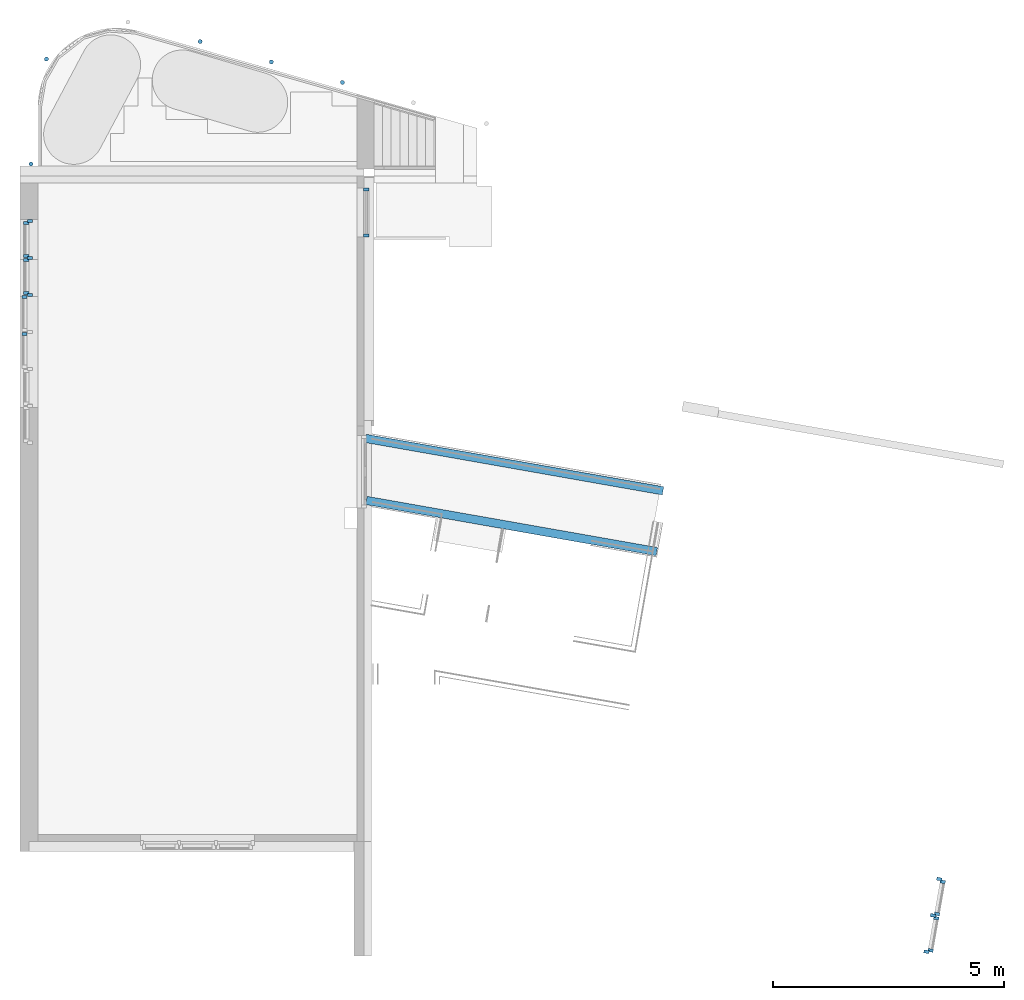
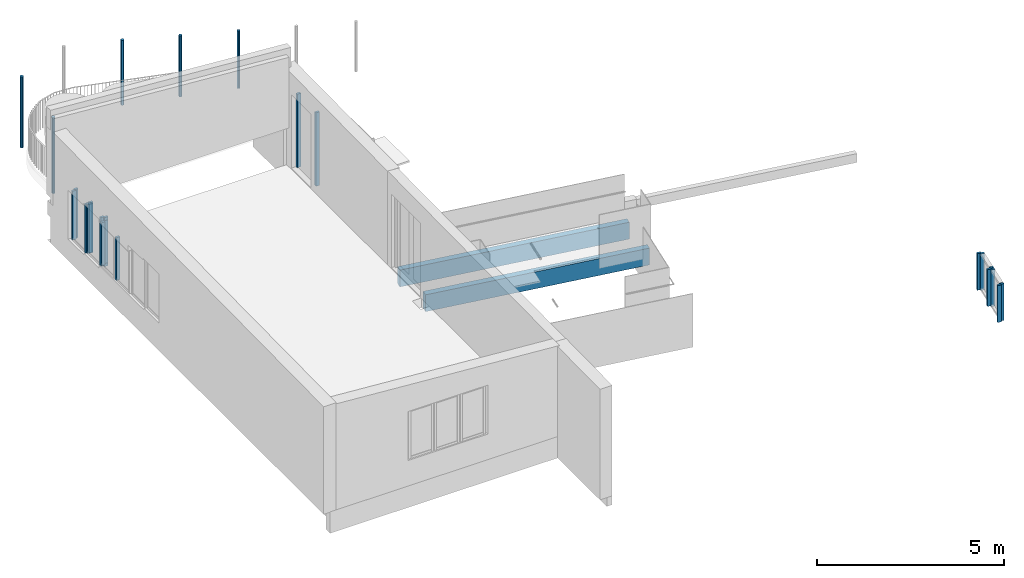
# One storey, part 2 of 10: 26 members, 2 beams, 15 elements without a shape of their own.
"""IFC2X3 building model written with IfcOpenShell, lengths in millimetres."""

from ifc_helpers import new_model, entity, si_unit, converted_unit, derived_unit, direction, frame, frame_2d, origin, origin_2d_with_axis, place, context, subcontext, project, spatial, polyline, rectangle, circle, outline, extrude, source, transform, mapped, material, type_object, type_shapes, element, aggregate, save


model = new_model("IFC2X3")

# Units and contexts
model_context = context("Model", 3, precision=0.01, world=origin(), true_north=direction((6.12303176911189e-17, 1.0)))
body_context = subcontext(model_context, "Body", "Model", "MODEL_VIEW")
ifc_project = project(units=[si_unit("LENGTHUNIT", "METRE", prefix="MILLI"), si_unit("AREAUNIT", "SQUARE_METRE"), si_unit("VOLUMEUNIT", "CUBIC_METRE"), converted_unit("PLANEANGLEUNIT", "DEGREE", entity("IfcRatioMeasure", 0.0174532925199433), si_unit("PLANEANGLEUNIT", "RADIAN"), dimensions=[0, 0, 0, 0, 0, 0, 0]), si_unit("MASSUNIT", "GRAM", prefix="KILO"), derived_unit("MASSDENSITYUNIT", [(si_unit("MASSUNIT", "GRAM", prefix="KILO"), 1), (si_unit("LENGTHUNIT", "METRE"), -3)]), derived_unit("MOMENTOFINERTIAUNIT", [(si_unit("LENGTHUNIT", "METRE"), 4)]), si_unit("TIMEUNIT", "SECOND"), si_unit("FREQUENCYUNIT", "HERTZ"), si_unit("THERMODYNAMICTEMPERATUREUNIT", "DEGREE_CELSIUS"), derived_unit("THERMALTRANSMITTANCEUNIT", [(si_unit("MASSUNIT", "GRAM", prefix="KILO"), 1), (si_unit("THERMODYNAMICTEMPERATUREUNIT", "KELVIN"), -1), (si_unit("TIMEUNIT", "SECOND"), -3)]), derived_unit("VOLUMETRICFLOWRATEUNIT", [(si_unit("LENGTHUNIT", "METRE"), 3), (si_unit("TIMEUNIT", "SECOND"), -1)]), si_unit("ELECTRICCURRENTUNIT", "AMPERE"), si_unit("ELECTRICVOLTAGEUNIT", "VOLT"), si_unit("POWERUNIT", "WATT"), si_unit("FORCEUNIT", "NEWTON", prefix="KILO"), si_unit("ILLUMINANCEUNIT", "LUX"), si_unit("LUMINOUSFLUXUNIT", "LUMEN"), si_unit("LUMINOUSINTENSITYUNIT", "CANDELA"), derived_unit("USERDEFINED", [(si_unit("MASSUNIT", "GRAM", prefix="KILO"), -1), (si_unit("LENGTHUNIT", "METRE"), -2), (si_unit("TIMEUNIT", "SECOND"), 3), (si_unit("LUMINOUSFLUXUNIT", "LUMEN"), 1)]), derived_unit("LINEARVELOCITYUNIT", [(si_unit("LENGTHUNIT", "METRE"), 1), (si_unit("TIMEUNIT", "SECOND"), -1)]), si_unit("PRESSUREUNIT", "PASCAL"), derived_unit("USERDEFINED", [(si_unit("LENGTHUNIT", "METRE"), -2), (si_unit("MASSUNIT", "GRAM", prefix="KILO"), 1), (si_unit("TIMEUNIT", "SECOND"), -2)]), derived_unit("LINEARFORCEUNIT", [(si_unit("MASSUNIT", "GRAM", prefix="KILO"), 1), (si_unit("LENGTHUNIT", "METRE"), 1), (si_unit("TIMEUNIT", "SECOND"), -2), (si_unit("LENGTHUNIT", "METRE"), -1)]), derived_unit("PLANARFORCEUNIT", [(si_unit("MASSUNIT", "GRAM", prefix="KILO"), 1), (si_unit("LENGTHUNIT", "METRE"), 1), (si_unit("TIMEUNIT", "SECOND"), -2), (si_unit("LENGTHUNIT", "METRE"), -2)])], contexts=[model_context])

# Site, building, storey
site_placement = place(None, origin())
site = spatial("IfcSite", under=ifc_project, at=site_placement, Name="<Kadaster Gemeente>;<Kadaster nummer>;<Kadaster sectie>", CompositionType="ELEMENT")
building_placement = place(site_placement, origin())
building = spatial("IfcBuilding", under=site, at=building_placement, Name="JRCZ Middelburg", CompositionType="ELEMENT")
storey_placement = place(building_placement, frame((0.0, 0.0, 3700.0)))
storey = spatial("IfcBuildingStorey", under=building, at=storey_placement, Name="02 tweede verdieping", CompositionType="ELEMENT", Elevation=3700.0)

# Beams
ifc_material_1 = material(Name="Softwood, Lumber")
beam_type = type_object("IfcBeamType", Name="M_Dimension Lumber:180x550", PredefinedType="NOTDEFINED")
beam_1_placement = place(storey_placement, frame((23427.5457609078, 16290.1481056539, 100.0), z_axis=(0.0, 0.0, 1.0), x_axis=(-0.984837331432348, 0.173480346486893, 0.0)))
element("IfcBeam", 1, at=beam_1_placement, inside=storey, type_object=beam_type, material=ifc_material_1, Name="M_Dimension Lumber:180x550", ObjectType="M_Dimension Lumber:180x550", context=body_context, shape_type="SweptSolid", body=[
    extrude(rectangle(XDim=550.0, YDim=180.000000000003, at=frame_2d((-5.40012479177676e-13, -3.76587649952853e-13), x_axis=(1.0, 0.0))), frame((-111.759709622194, 0.0, -425.0), z_axis=(1.0, 0.0, 0.0), x_axis=(0.0, 0.0, -1.0)), (0.0, 0.0, 1.0), 6377.85981919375),
])
beam_2_placement = place(storey_placement, frame((23671.9398573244, 17585.4193425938, 100.0), z_axis=(0.0, 0.0, 1.0), x_axis=(-0.984807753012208, 0.173648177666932, 0.0)))
element("IfcBeam", 2, at=beam_2_placement, inside=storey, type_object=beam_type, material=ifc_material_1, Name="M_Dimension Lumber:180x550", ObjectType="M_Dimension Lumber:180x550", context=body_context, shape_type="SweptSolid", body=[
    extrude(rectangle(XDim=550.0, YDim=180.000000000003, at=frame_2d((-5.40012479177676e-13, 2.1316282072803e-12), x_axis=(1.0, 0.0))), frame((0.0, 0.0, -425.0), z_axis=(1.0, 0.0, 0.0), x_axis=(0.0, 0.0, -1.0)), (0.0, 0.0, 1.0), 6533.0971955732),
])

# Curtain wall, members
curtain_wall_type_1 = type_object("IfcCurtainWallType", Name="Curtain Wall:NLRS_31_CW_Ontwerpkozijn 067x114", PredefinedType="NOTDEFINED")
curtain_wall_1_placement = place(storey_placement, frame((0.0, 0.0, -3700.0)))
curtain_wall_1 = element("IfcCurtainWall", 3, at=curtain_wall_1_placement, inside=storey, type_object=curtain_wall_type_1, Name="Curtain Wall:NLRS_31_CW_Ontwerpkozijn 067x114", ObjectType="Curtain Wall:NLRS_31_CW_Ontwerpkozijn 067x114")
ifc_material_2 = material(Name="RBM_a_kozijn")
member_type_1 = type_object("IfcMemberType", Name="Rectangular Mullion:31_CWM_067x114", PredefinedType="MULLION", material=ifc_material_2)
shared_shape_1 = source(origin(), body_context, "Body", "SweptSolid", [
    extrude(rectangle(XDim=113.999999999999, YDim=67.0, at=origin_2d_with_axis()), frame((-33.5, -57.0, -2400.0), z_axis=(0.0, 0.0, 1.0), x_axis=(0.0, -1.0, 0.0)), (0.0, 0.0, 1.0), 2400.0),
])
type_shapes(member_type_1, [shared_shape_1])
member_1_placement = place(storey_placement, frame((17197.0, 23074.0, 0.0), z_axis=(0.0, 0.0, -1.0), x_axis=(0.0, -1.0, 0.0)))
member_1 = element("IfcMember", 4, at=member_1_placement, type_object=member_type_1, material=ifc_material_2, Name="Rectangular Mullion:31_CWM_067x114", ObjectType="Rectangular Mullion:31_CWM_067x114", context=body_context, shape_type="MappedRepresentation", body=[
    mapped(shared_shape_1, transform((0.0, 0.0, 0.0), scale=1.0)),
])
member_type_2 = type_object("IfcMemberType", Name="Rectangular Mullion:31_CWM_067x114", PredefinedType="MULLION", material=ifc_material_2)
shared_shape_2 = source(origin(), body_context, "Body", "SweptSolid", [
    extrude(rectangle(XDim=113.999999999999, YDim=67.0, at=origin_2d_with_axis()), frame((-33.5, -57.0, -2400.0), z_axis=(0.0, 0.0, 1.0), x_axis=(0.0, -1.0, 0.0)), (0.0, 0.0, 1.0), 2400.0),
])
type_shapes(member_type_2, [shared_shape_2])
member_2_placement = place(storey_placement, frame((17197.0, 24138.0, 2400.0), z_axis=(0.0, 0.0, 1.0), x_axis=(0.0, 1.0, 0.0)))
member_2 = element("IfcMember", 5, at=member_2_placement, type_object=member_type_2, material=ifc_material_2, Name="Rectangular Mullion:31_CWM_067x114", ObjectType="Rectangular Mullion:31_CWM_067x114", context=body_context, shape_type="MappedRepresentation", body=[
    mapped(shared_shape_2, transform((0.0, 0.0, 0.0), scale=1.0)),
])
aggregate(curtain_wall_1, [member_1, member_2])

curtain_wall_type_2 = type_object("IfcCurtainWallType", PredefinedType="NOTDEFINED")
curtain_wall_2_placement = place(storey_placement, frame((0.0, 0.0, -3700.0)))
curtain_wall_2 = element("IfcCurtainWall", 6, at=curtain_wall_2_placement, inside=storey, type_object=curtain_wall_type_2)
ifc_material_3 = material(Name="RBM_i2_binnenkozijn")
member_type_3 = type_object("IfcMemberType", Name="Rectangular Mullion:32_CWM_067x114", PredefinedType="MULLION", material=ifc_material_3)
shared_shape_3 = source(origin(), body_context, "Body", "SweptSolid", [
    extrude(rectangle(XDim=113.999999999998, YDim=67.0000000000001, at=frame_2d((2.22399876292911e-12, -1.56319401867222e-13), x_axis=(1.0, 0.0))), frame((29373.0265848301, 7613.96088318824, 4400.0), z_axis=(0.0, 0.0, 1.0), x_axis=(-0.984807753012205, 0.17364817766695, 0.0)), (0.0, 0.0, 1.0), 1200.0),
])
type_shapes(member_type_3, [shared_shape_3])
member_3_placement = place(storey_placement, frame((0.0, 0.0, -3700.0)))
member_3 = element("IfcMember", 7, at=member_3_placement, type_object=member_type_3, material=ifc_material_3, Name="Rectangular Mullion:32_CWM_067x114", ObjectType="Rectangular Mullion:32_CWM_067x114", context=body_context, shape_type="MappedRepresentation", body=[
    mapped(shared_shape_3, transform((0.0, 0.0, 0.0), scale=1.0)),
])
member_type_4 = type_object("IfcMemberType", Name="Rectangular Mullion:32_CWM_067x114", PredefinedType="MULLION", material=ifc_material_3)
shared_shape_4 = source(origin(), body_context, "Body", "SweptSolid", [
    extrude(rectangle(XDim=113.999999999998, YDim=67.0000000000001, at=frame_2d((2.22399876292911e-12, -1.56319401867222e-13), x_axis=(1.0, 0.0))), frame((29511.250534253, 8397.86785458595, 4400.0), z_axis=(0.0, 0.0, 1.0), x_axis=(-0.984807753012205, 0.17364817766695, 0.0)), (0.0, 0.0, 1.0), 1200.0),
])
type_shapes(member_type_4, [shared_shape_4])
member_4_placement = place(storey_placement, frame((0.0, 0.0, -3700.0)))
member_4 = element("IfcMember", 8, at=member_4_placement, type_object=member_type_4, material=ifc_material_3, Name="Rectangular Mullion:32_CWM_067x114", ObjectType="Rectangular Mullion:32_CWM_067x114", context=body_context, shape_type="MappedRepresentation", body=[
    mapped(shared_shape_4, transform((0.0, 0.0, 0.0), scale=1.0)),
])
aggregate(curtain_wall_2, [member_3, member_4])

curtain_wall_type_3 = type_object("IfcCurtainWallType", Name="Curtain Wall:NLRS_31_CW_Ontwerpkozijn 067x114 2", PredefinedType="NOTDEFINED")
curtain_wall_3_placement = place(storey_placement, frame((0.0, 0.0, -3700.0)))
curtain_wall_3 = element("IfcCurtainWall", 9, at=curtain_wall_3_placement, inside=storey, type_object=curtain_wall_type_3, Name="Curtain Wall:NLRS_31_CW_Ontwerpkozijn 067x114 2", ObjectType="Curtain Wall:NLRS_31_CW_Ontwerpkozijn 067x114 2")
member_type_5 = type_object("IfcMemberType", Name="Rectangular Mullion:31_CWM_067x114", PredefinedType="MULLION", material=ifc_material_2)
shared_shape_5 = source(origin(), body_context, "Body", "SweptSolid", [
    extrude(outline(polyline([(-37.0, -65.3333333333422), (30.0, -65.3333333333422), (30.0, 16.6666666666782), (7.0, 16.6666666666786), (7.0, 48.6666666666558), (-37.0, 48.6666666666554), (-37.0, -65.3333333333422)])), frame((29576.7652875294, 8345.19105816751, 4400.0), z_axis=(0.0, 0.0, 1.0), x_axis=(0.173648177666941, 0.984807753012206, 0.0)), (0.0, 0.0, 1.0), 1200.0),
])
type_shapes(member_type_5, [shared_shape_5])
member_5_placement = place(storey_placement, frame((0.0, 0.0, -3700.0)))
member_5 = element("IfcMember", 10, at=member_5_placement, type_object=member_type_5, material=ifc_material_2, Name="Rectangular Mullion:31_CWM_067x114", ObjectType="Rectangular Mullion:31_CWM_067x114", context=body_context, shape_type="MappedRepresentation", body=[
    mapped(shared_shape_5, transform((0.0, 0.0, 0.0), scale=1.0)),
])
member_type_6 = type_object("IfcMemberType", Name="Rectangular Mullion:31_CWM_067x114", PredefinedType="MULLION", material=ifc_material_2)
shared_shape_6 = source(origin(), body_context, "Body", "SweptSolid", [
    extrude(outline(polyline([(-30.0, -65.3333333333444), (37.0, -65.3333333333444), (37.0, 48.6666666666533), (-7.0, 48.666666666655), (-7.0, 16.6666666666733), (-30.0, 16.666666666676), (-30.0, -65.3333333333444)])), frame((29452.6068404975, 7641.05351476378, 4400.0), z_axis=(0.0, 0.0, 1.0), x_axis=(0.173648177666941, 0.984807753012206, 0.0)), (0.0, 0.0, 1.0), 1200.0),
])
type_shapes(member_type_6, [shared_shape_6])
member_6_placement = place(storey_placement, frame((0.0, 0.0, -3700.0)))
member_6 = element("IfcMember", 11, at=member_6_placement, type_object=member_type_6, material=ifc_material_2, Name="Rectangular Mullion:31_CWM_067x114", ObjectType="Rectangular Mullion:31_CWM_067x114", context=body_context, shape_type="MappedRepresentation", body=[
    mapped(shared_shape_6, transform((0.0, 0.0, 0.0), scale=1.0)),
])
aggregate(curtain_wall_3, [member_5, member_6])

curtain_wall_4_placement = place(storey_placement, frame((0.0, 0.0, -3700.0)))
curtain_wall_4 = element("IfcCurtainWall", 12, at=curtain_wall_4_placement, inside=storey, type_object=curtain_wall_type_2)
member_type_7 = type_object("IfcMemberType", Name="Rectangular Mullion:32_CWM_067x114", PredefinedType="MULLION", material=ifc_material_3)
shared_shape_7 = source(origin(), body_context, "Body", "SweptSolid", [
    extrude(rectangle(XDim=113.999999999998, YDim=67.0000000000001, at=frame_2d((-2.22399876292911e-12, 1.56319401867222e-13), x_axis=(1.0, 0.0))), frame((29511.9451269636, 8401.80708559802, 4400.0), z_axis=(0.0, 0.0, 1.0), x_axis=(-0.984807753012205, 0.17364817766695, 0.0)), (0.0, 0.0, 1.0), 1200.0),
])
type_shapes(member_type_7, [shared_shape_7])
member_7_placement = place(storey_placement, frame((0.0, 0.0, -3700.0)))
member_7 = element("IfcMember", 13, at=member_7_placement, type_object=member_type_7, material=ifc_material_3, Name="Rectangular Mullion:32_CWM_067x114", ObjectType="Rectangular Mullion:32_CWM_067x114", context=body_context, shape_type="MappedRepresentation", body=[
    mapped(shared_shape_7, transform((0.0, 0.0, 0.0), scale=1.0)),
])
member_type_8 = type_object("IfcMemberType", Name="Rectangular Mullion:32_CWM_067x114", PredefinedType="MULLION", material=ifc_material_3)
shared_shape_8 = source(origin(), body_context, "Body", "SweptSolid", [
    extrude(rectangle(XDim=113.999999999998, YDim=67.0000000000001, at=frame_2d((2.03925765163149e-12, 9.09494701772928e-13), x_axis=(1.0, 0.0))), frame((29650.1690763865, 9185.71405699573, 4400.0), z_axis=(0.0, 0.0, 1.0), x_axis=(-0.984807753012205, 0.17364817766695, 0.0)), (0.0, 0.0, 1.0), 1200.0),
])
type_shapes(member_type_8, [shared_shape_8])
member_8_placement = place(storey_placement, frame((0.0, 0.0, -3700.0)))
member_8 = element("IfcMember", 14, at=member_8_placement, type_object=member_type_8, material=ifc_material_3, Name="Rectangular Mullion:32_CWM_067x114", ObjectType="Rectangular Mullion:32_CWM_067x114", context=body_context, shape_type="MappedRepresentation", body=[
    mapped(shared_shape_8, transform((0.0, 0.0, 0.0), scale=1.0)),
])
aggregate(curtain_wall_4, [member_7, member_8])

curtain_wall_5_placement = place(storey_placement, frame((0.0, 0.0, -3700.0)))
curtain_wall_5 = element("IfcCurtainWall", 15, at=curtain_wall_5_placement, inside=storey, type_object=curtain_wall_type_3, Name="Curtain Wall:NLRS_31_CW_Ontwerpkozijn 067x114 2", ObjectType="Curtain Wall:NLRS_31_CW_Ontwerpkozijn 067x114 2")
member_type_9 = type_object("IfcMemberType", Name="Rectangular Mullion:31_CWM_067x114", PredefinedType="MULLION", material=ifc_material_2)
shared_shape_9 = source(origin(), body_context, "Body", "SweptSolid", [
    extrude(outline(polyline([(-37.0, -65.3333333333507), (30.0, -65.3333333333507), (30.0, 16.6666666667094), (7.0, 16.6666666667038), (7.0, 48.6666666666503), (-37.0, 48.6666666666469), (-37.0, -65.3333333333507)])), frame((29715.6838296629, 9133.03726057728, 4400.0), z_axis=(0.0, 0.0, 1.0), x_axis=(0.173648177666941, 0.984807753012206, 0.0)), (0.0, 0.0, 1.0), 1200.0),
])
type_shapes(member_type_9, [shared_shape_9])
member_9_placement = place(storey_placement, frame((0.0, 0.0, -3700.0)))
member_9 = element("IfcMember", 16, at=member_9_placement, type_object=member_type_9, material=ifc_material_2, Name="Rectangular Mullion:31_CWM_067x114", ObjectType="Rectangular Mullion:31_CWM_067x114", context=body_context, shape_type="MappedRepresentation", body=[
    mapped(shared_shape_9, transform((0.0, 0.0, 0.0), scale=1.0)),
])
member_type_10 = type_object("IfcMemberType", Name="Rectangular Mullion:31_CWM_067x114", PredefinedType="MULLION", material=ifc_material_2)
shared_shape_10 = source(origin(), body_context, "Body", "SweptSolid", [
    extrude(outline(polyline([(-30.0, -65.3333333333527), (37.0, -65.3333333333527), (37.0, 48.6666666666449), (-7.0, 48.6666666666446), (-7.0, 16.6666666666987), (-30.0, 16.6666666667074), (-30.0, -65.3333333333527)])), frame((29591.525382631, 8428.89971717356, 4400.0), z_axis=(0.0, 0.0, 1.0), x_axis=(0.173648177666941, 0.984807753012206, 0.0)), (0.0, 0.0, 1.0), 1200.0),
])
type_shapes(member_type_10, [shared_shape_10])
member_10_placement = place(storey_placement, frame((0.0, 0.0, -3700.0)))
member_10 = element("IfcMember", 17, at=member_10_placement, type_object=member_type_10, material=ifc_material_2, Name="Rectangular Mullion:31_CWM_067x114", ObjectType="Rectangular Mullion:31_CWM_067x114", context=body_context, shape_type="MappedRepresentation", body=[
    mapped(shared_shape_10, transform((0.0, 0.0, 0.0), scale=1.0)),
])
aggregate(curtain_wall_5, [member_9, member_10])

curtain_wall_6_placement = place(storey_placement, frame((0.0, 0.0, -3700.0)))
curtain_wall_6 = element("IfcCurtainWall", 18, at=curtain_wall_6_placement, inside=storey, type_object=curtain_wall_type_2)
member_type_11 = type_object("IfcMemberType", Name="Rectangular Mullion:32_CWM_067x114", PredefinedType="MULLION", material=ifc_material_3)
shared_shape_11 = source(origin(), body_context, "Body", "SweptSolid", [
    extrude(rectangle(XDim=67.0000000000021, YDim=114.0, at=origin_2d_with_axis()), frame((9980.0, 22620.8639489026, 4400.0), z_axis=(0.0, 0.0, 1.0), x_axis=(0.0, -1.0, 0.0)), (0.0, 0.0, 1.0), 1600.0),
])
type_shapes(member_type_11, [shared_shape_11])
member_11_placement = place(storey_placement, frame((0.0, 0.0, -3700.0)))
member_11 = element("IfcMember", 19, at=member_11_placement, type_object=member_type_11, material=ifc_material_3, Name="Rectangular Mullion:32_CWM_067x114", ObjectType="Rectangular Mullion:32_CWM_067x114", context=body_context, shape_type="MappedRepresentation", body=[
    mapped(shared_shape_11, transform((0.0, 0.0, 0.0), scale=1.0)),
])
member_type_12 = type_object("IfcMemberType", Name="Rectangular Mullion:32_CWM_067x114", PredefinedType="MULLION", material=ifc_material_3)
shared_shape_12 = source(origin(), body_context, "Body", "SweptSolid", [
    extrude(rectangle(XDim=67.0000000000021, YDim=114.0, at=origin_2d_with_axis()), frame((9980.0, 21824.8639489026, 4400.0), z_axis=(0.0, 0.0, 1.0), x_axis=(0.0, -1.0, 0.0)), (0.0, 0.0, 1.0), 1600.0),
])
type_shapes(member_type_12, [shared_shape_12])
member_12_placement = place(storey_placement, frame((0.0, 0.0, -3700.0)))
member_12 = element("IfcMember", 20, at=member_12_placement, type_object=member_type_12, material=ifc_material_3, Name="Rectangular Mullion:32_CWM_067x114", ObjectType="Rectangular Mullion:32_CWM_067x114", context=body_context, shape_type="MappedRepresentation", body=[
    mapped(shared_shape_12, transform((0.0, 0.0, 0.0), scale=1.0)),
])
aggregate(curtain_wall_6, [member_11, member_12])

curtain_wall_7_placement = place(storey_placement, frame((0.0, 0.0, -3700.0)))
curtain_wall_7 = element("IfcCurtainWall", 21, at=curtain_wall_7_placement, inside=storey, type_object=curtain_wall_type_3, Name="Curtain Wall:NLRS_31_CW_Ontwerpkozijn 067x114 2", ObjectType="Curtain Wall:NLRS_31_CW_Ontwerpkozijn 067x114 2")
member_type_13 = type_object("IfcMemberType", Name="Rectangular Mullion:31_CWM_067x114", PredefinedType="MULLION", material=ifc_material_2)
shared_shape_13 = source(origin(), body_context, "Body", "SweptSolid", [
    extrude(outline(polyline([(-37.0, -65.3333333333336), (30.0, -65.3333333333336), (30.0, 16.666666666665), (7.0, 16.666666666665), (7.0, 48.6666666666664), (-37.0, 48.6666666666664), (-37.0, -65.3333333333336)])), frame((9906.33333333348, 21865.3639489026, 4400.0), z_axis=(0.0, 0.0, 1.0), x_axis=(0.0, -1.0, 0.0)), (0.0, 0.0, 1.0), 1600.0),
])
type_shapes(member_type_13, [shared_shape_13])
member_13_placement = place(storey_placement, frame((0.0, 0.0, -3700.0)))
member_13 = element("IfcMember", 22, at=member_13_placement, type_object=member_type_13, material=ifc_material_2, Name="Rectangular Mullion:31_CWM_067x114", ObjectType="Rectangular Mullion:31_CWM_067x114", context=body_context, shape_type="MappedRepresentation", body=[
    mapped(shared_shape_13, transform((0.0, 0.0, 0.0), scale=1.0)),
])
member_type_14 = type_object("IfcMemberType", Name="Rectangular Mullion:31_CWM_067x114", PredefinedType="MULLION", material=ifc_material_2)
shared_shape_14 = source(origin(), body_context, "Body", "SweptSolid", [
    extrude(outline(polyline([(-30.0, -65.3333333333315), (37.0, -65.3333333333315), (37.0, 48.6666666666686), (-7.0, 48.6666666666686), (-7.0, 16.6666666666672), (-30.0, 16.6666666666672), (-30.0, -65.3333333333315)])), frame((9906.33333333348, 22580.3639489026, 4400.0), z_axis=(0.0, 0.0, 1.0), x_axis=(0.0, -1.0, 0.0)), (0.0, 0.0, 1.0), 1600.0),
])
type_shapes(member_type_14, [shared_shape_14])
member_14_placement = place(storey_placement, frame((0.0, 0.0, -3700.0)))
member_14 = element("IfcMember", 23, at=member_14_placement, type_object=member_type_14, material=ifc_material_2, Name="Rectangular Mullion:31_CWM_067x114", ObjectType="Rectangular Mullion:31_CWM_067x114", context=body_context, shape_type="MappedRepresentation", body=[
    mapped(shared_shape_14, transform((0.0, 0.0, 0.0), scale=1.0)),
])
aggregate(curtain_wall_7, [member_13, member_14])

# Curtain wall, member
curtain_wall_8_placement = place(storey_placement, frame((0.0, 0.0, -3700.0)))
curtain_wall_8 = element("IfcCurtainWall", 24, at=curtain_wall_8_placement, inside=storey, type_object=curtain_wall_type_2)
member_type_15 = type_object("IfcMemberType", Name="Rectangular Mullion:32_CWM_067x114", PredefinedType="MULLION", material=ifc_material_3)
shared_shape_15 = source(origin(), body_context, "Body", "SweptSolid", [
    extrude(rectangle(XDim=67.0000000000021, YDim=114.0, at=frame_2d((0.0, 1.08002495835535e-12), x_axis=(1.0, 0.0))), frame((9980.0, 21820.8639489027, 4500.0), z_axis=(0.0, 0.0, 1.0), x_axis=(0.0, -1.0, 0.0)), (0.0, 0.0, 1.0), 1400.0),
])
type_shapes(member_type_15, [shared_shape_15])
member_15_placement = place(storey_placement, frame((0.0, 0.0, -3700.0)))
member_15 = element("IfcMember", 25, at=member_15_placement, type_object=member_type_15, material=ifc_material_3, Name="Rectangular Mullion:32_CWM_067x114", ObjectType="Rectangular Mullion:32_CWM_067x114", context=body_context, shape_type="MappedRepresentation", body=[
    mapped(shared_shape_15, transform((0.0, 0.0, 0.0), scale=1.0)),
])
aggregate(curtain_wall_8, [member_15])

curtain_wall_9_placement = place(storey_placement, frame((0.0, 0.0, -3700.0)))
curtain_wall_9 = element("IfcCurtainWall", 26, at=curtain_wall_9_placement, inside=storey, type_object=curtain_wall_type_3, Name="Curtain Wall:NLRS_31_CW_Ontwerpkozijn 067x114 2", ObjectType="Curtain Wall:NLRS_31_CW_Ontwerpkozijn 067x114 2")
member_type_16 = type_object("IfcMemberType", Name="Rectangular Mullion:31_CWM_067x114", PredefinedType="MULLION", material=ifc_material_2)
shared_shape_16 = source(origin(), body_context, "Body", "SweptSolid", [
    extrude(rectangle(XDim=67.0000000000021, YDim=114.0, at=frame_2d((2.16360263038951e-12, 1.08002495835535e-12), x_axis=(1.0, 0.0))), frame((9858.0, 21776.8639489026, 4500.0), z_axis=(0.0, 0.0, 1.0), x_axis=(0.0, -1.0, 0.0)), (0.0, 0.0, 1.0), 1400.0),
])
type_shapes(member_type_16, [shared_shape_16])
member_16_placement = place(storey_placement, frame((0.0, 0.0, -3700.0)))
member_16 = element("IfcMember", 27, at=member_16_placement, type_object=member_type_16, material=ifc_material_2, Name="Rectangular Mullion:31_CWM_067x114", ObjectType="Rectangular Mullion:31_CWM_067x114", context=body_context, shape_type="MappedRepresentation", body=[
    mapped(shared_shape_16, transform((0.0, 0.0, 0.0), scale=1.0)),
])
aggregate(curtain_wall_9, [member_16])

curtain_wall_10_placement = place(storey_placement, frame((0.0, 0.0, -3700.0)))
curtain_wall_10 = element("IfcCurtainWall", 28, at=curtain_wall_10_placement, inside=storey, type_object=curtain_wall_type_3, Name="Curtain Wall:NLRS_31_CW_Ontwerpkozijn 067x114 2", ObjectType="Curtain Wall:NLRS_31_CW_Ontwerpkozijn 067x114 2")
member_type_17 = type_object("IfcMemberType", Name="Rectangular Mullion:31_CWM_067x114", PredefinedType="MULLION", material=ifc_material_2)
shared_shape_17 = source(origin(), body_context, "Body", "SweptSolid", [
    extrude(rectangle(XDim=67.0000000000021, YDim=114.0, at=frame_2d((2.16360263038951e-12, 1.08002495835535e-12), x_axis=(1.0, 0.0))), frame((9858.0, 20976.8639489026, 4500.0), z_axis=(0.0, 0.0, 1.0), x_axis=(0.0, -1.0, 0.0)), (0.0, 0.0, 1.0), 1400.0),
])
type_shapes(member_type_17, [shared_shape_17])
member_17_placement = place(storey_placement, frame((0.0, 0.0, -3700.0)))
member_17 = element("IfcMember", 29, at=member_17_placement, type_object=member_type_17, material=ifc_material_2, Name="Rectangular Mullion:31_CWM_067x114", ObjectType="Rectangular Mullion:31_CWM_067x114", context=body_context, shape_type="MappedRepresentation", body=[
    mapped(shared_shape_17, transform((0.0, 0.0, 0.0), scale=1.0)),
])
aggregate(curtain_wall_10, [member_17])

# Curtain wall, members
curtain_wall_11_placement = place(storey_placement, frame((0.0, 0.0, -3700.0)))
curtain_wall_11 = element("IfcCurtainWall", 30, at=curtain_wall_11_placement, inside=storey, type_object=curtain_wall_type_2)
member_type_18 = type_object("IfcMemberType", Name="Rectangular Mullion:32_CWM_067x114", PredefinedType="MULLION", material=ifc_material_3)
shared_shape_18 = source(origin(), body_context, "Body", "SweptSolid", [
    extrude(rectangle(XDim=67.0000000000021, YDim=114.0, at=origin_2d_with_axis()), frame((9980.0, 23420.8639489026, 4350.0), z_axis=(0.0, 0.0, 1.0), x_axis=(0.0, -1.0, 0.0)), (0.0, 0.0, 1.0), 1600.0),
])
type_shapes(member_type_18, [shared_shape_18])
member_18_placement = place(storey_placement, frame((0.0, 0.0, -3700.0)))
member_18 = element("IfcMember", 31, at=member_18_placement, type_object=member_type_18, material=ifc_material_3, Name="Rectangular Mullion:32_CWM_067x114", ObjectType="Rectangular Mullion:32_CWM_067x114", context=body_context, shape_type="MappedRepresentation", body=[
    mapped(shared_shape_18, transform((0.0, 0.0, 0.0), scale=1.0)),
])
member_type_19 = type_object("IfcMemberType", Name="Rectangular Mullion:32_CWM_067x114", PredefinedType="MULLION", material=ifc_material_3)
shared_shape_19 = source(origin(), body_context, "Body", "SweptSolid", [
    extrude(rectangle(XDim=67.0000000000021, YDim=114.0, at=origin_2d_with_axis()), frame((9980.0, 22624.8639489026, 4350.0), z_axis=(0.0, 0.0, 1.0), x_axis=(0.0, -1.0, 0.0)), (0.0, 0.0, 1.0), 1600.0),
])
type_shapes(member_type_19, [shared_shape_19])
member_19_placement = place(storey_placement, frame((0.0, 0.0, -3700.0)))
member_19 = element("IfcMember", 32, at=member_19_placement, type_object=member_type_19, material=ifc_material_3, Name="Rectangular Mullion:32_CWM_067x114", ObjectType="Rectangular Mullion:32_CWM_067x114", context=body_context, shape_type="MappedRepresentation", body=[
    mapped(shared_shape_19, transform((0.0, 0.0, 0.0), scale=1.0)),
])
aggregate(curtain_wall_11, [member_18, member_19])

curtain_wall_12_placement = place(storey_placement, frame((0.0, 0.0, -3700.0)))
curtain_wall_12 = element("IfcCurtainWall", 33, at=curtain_wall_12_placement, inside=storey, type_object=curtain_wall_type_3, Name="Curtain Wall:NLRS_31_CW_Ontwerpkozijn 067x114 2", ObjectType="Curtain Wall:NLRS_31_CW_Ontwerpkozijn 067x114 2")
member_type_20 = type_object("IfcMemberType", Name="Rectangular Mullion:31_CWM_067x114", PredefinedType="MULLION", material=ifc_material_2)
shared_shape_20 = source(origin(), body_context, "Body", "SweptSolid", [
    extrude(outline(polyline([(-37.0, -65.3333333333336), (30.0, -65.3333333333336), (30.0, 16.666666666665), (7.0, 16.666666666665), (7.0, 48.6666666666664), (-37.0, 48.6666666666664), (-37.0, -65.3333333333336)])), frame((9906.33333333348, 22665.3639489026, 4350.0), z_axis=(0.0, 0.0, 1.0), x_axis=(0.0, -1.0, 0.0)), (0.0, 0.0, 1.0), 1600.0),
])
type_shapes(member_type_20, [shared_shape_20])
member_20_placement = place(storey_placement, frame((0.0, 0.0, -3700.0)))
member_20 = element("IfcMember", 34, at=member_20_placement, type_object=member_type_20, material=ifc_material_2, Name="Rectangular Mullion:31_CWM_067x114", ObjectType="Rectangular Mullion:31_CWM_067x114", context=body_context, shape_type="MappedRepresentation", body=[
    mapped(shared_shape_20, transform((0.0, 0.0, 0.0), scale=1.0)),
])
member_type_21 = type_object("IfcMemberType", Name="Rectangular Mullion:31_CWM_067x114", PredefinedType="MULLION", material=ifc_material_2)
shared_shape_21 = source(origin(), body_context, "Body", "SweptSolid", [
    extrude(outline(polyline([(-30.0, -65.3333333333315), (37.0, -65.3333333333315), (37.0, 48.6666666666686), (-7.0, 48.6666666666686), (-7.0, 16.6666666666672), (-30.0, 16.6666666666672), (-30.0, -65.3333333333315)])), frame((9906.33333333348, 23380.3639489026, 4350.0), z_axis=(0.0, 0.0, 1.0), x_axis=(0.0, -1.0, 0.0)), (0.0, 0.0, 1.0), 1600.0),
])
type_shapes(member_type_21, [shared_shape_21])
member_21_placement = place(storey_placement, frame((0.0, 0.0, -3700.0)))
member_21 = element("IfcMember", 35, at=member_21_placement, type_object=member_type_21, material=ifc_material_2, Name="Rectangular Mullion:31_CWM_067x114", ObjectType="Rectangular Mullion:31_CWM_067x114", context=body_context, shape_type="MappedRepresentation", body=[
    mapped(shared_shape_21, transform((0.0, 0.0, 0.0), scale=1.0)),
])
aggregate(curtain_wall_12, [member_20, member_21])

curtain_wall_type_4 = type_object("IfcCurtainWallType", PredefinedType="NOTDEFINED")
curtain_wall_13_placement = place(storey_placement, frame((0.0, 0.0, -3700.0)))
curtain_wall_13 = element("IfcCurtainWall", 36, at=curtain_wall_13_placement, inside=storey, type_object=curtain_wall_type_4)
ifc_material_4 = material(Name="Staal")
member_type_22 = type_object("IfcMemberType", Name="Rectangular Mullion:kolom rond 90", PredefinedType="MULLION", material=ifc_material_4)
shared_shape_22 = source(origin(), body_context, "Body", "SweptSolid", [
    extrude(circle(Radius=45.0, at=frame_2d((-4.22994972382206e-15, 6.84695561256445e-14), x_axis=(1.0, 0.0))), frame((0.0, 0.0, -2118.58799239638), z_axis=(0.0, 0.0, 1.0), x_axis=(-1.0, 0.0, 0.0)), (0.0, 0.0, 1.0), 2118.58799239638),
])
type_shapes(member_type_22, [shared_shape_22])
placement = place(building_placement, frame((0.0, 0.0, 6000.0)))
member_22_placement = place(placement, frame((13660.3432694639, 27304.3793207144, -950.0), z_axis=(0.0, 0.0, -1.0), x_axis=(0.96126169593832, -0.275637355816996, 0.0)))
member_22 = element("IfcMember", 37, at=member_22_placement, type_object=member_type_22, material=ifc_material_4, Name="Rectangular Mullion:kolom rond 90", ObjectType="Rectangular Mullion:kolom rond 90", context=body_context, shape_type="MappedRepresentation", body=[
    mapped(shared_shape_22, transform((0.0, 0.0, 0.0), scale=1.0)),
])
member_type_23 = type_object("IfcMemberType", Name="Rectangular Mullion:kolom rond 90", PredefinedType="MULLION", material=ifc_material_4)
shared_shape_23 = source(origin(), body_context, "Body", "SweptSolid", [
    extrude(circle(Radius=45.0, at=frame_2d((-4.22994972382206e-15, 6.84695561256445e-14), x_axis=(1.0, 0.0))), frame((0.0, 0.0, -1997.85158838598), z_axis=(0.0, 0.0, 1.0), x_axis=(-1.0, 0.0, 0.0)), (0.0, 0.0, 1.0), 1997.85158838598),
])
type_shapes(member_type_23, [shared_shape_23])
member_23_placement = place(placement, frame((15199.3232449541, 26863.0839139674, -950.0), z_axis=(0.0, 0.0, -1.0), x_axis=(0.96126169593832, -0.275637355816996, 0.0)))
member_23 = element("IfcMember", 38, at=member_23_placement, type_object=member_type_23, material=ifc_material_4, Name="Rectangular Mullion:kolom rond 90", ObjectType="Rectangular Mullion:kolom rond 90", context=body_context, shape_type="MappedRepresentation", body=[
    mapped(shared_shape_23, transform((0.0, 0.0, 0.0), scale=1.0)),
])
member_type_24 = type_object("IfcMemberType", Name="Rectangular Mullion:kolom rond 90", PredefinedType="MULLION", material=ifc_material_4)
shared_shape_24 = source(origin(), body_context, "Body", "SweptSolid", [
    extrude(circle(Radius=45.0, at=frame_2d((-4.22994972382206e-15, 6.84695561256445e-14), x_axis=(1.0, 0.0))), frame((0.0, 0.0, -1877.19059751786), z_axis=(0.0, 0.0, 1.0), x_axis=(-1.0, 0.0, 0.0)), (0.0, 0.0, 1.0), 1877.19059751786),
])
type_shapes(member_type_24, [shared_shape_24])
member_24_placement = place(placement, frame((16737.3419584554, 26422.0641446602, -950.0), z_axis=(0.0, 0.0, -1.0), x_axis=(0.96126169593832, -0.275637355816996, 0.0)))
member_24 = element("IfcMember", 39, at=member_24_placement, type_object=member_type_24, material=ifc_material_4, Name="Rectangular Mullion:kolom rond 90", ObjectType="Rectangular Mullion:kolom rond 90", context=body_context, shape_type="MappedRepresentation", body=[
    mapped(shared_shape_24, transform((0.0, 0.0, 0.0), scale=1.0)),
])
aggregate(curtain_wall_13, [member_22, member_23, member_24])

# Curtain wall, member
curtain_wall_14_placement = place(storey_placement, frame((0.0, 0.0, -3700.0)))
curtain_wall_14 = element("IfcCurtainWall", 40, at=curtain_wall_14_placement, inside=storey, type_object=curtain_wall_type_4)
member_type_25 = type_object("IfcMemberType", Name="Rectangular Mullion:kolom rond 90", PredefinedType="MULLION", material=ifc_material_4)
shared_shape_25 = source(origin(), body_context, "Body", "SweptSolid", [
    extrude(circle(Radius=45.0, at=frame_2d((-2.14795178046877e-28, 6.84695561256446e-14), x_axis=(1.0, 0.0))), frame((-45.0, 0.0, -2494.51433785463)), (0.0, 0.0, 1.0), 2494.51433785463),
])
type_shapes(member_type_25, [shared_shape_25])
member_25_placement = place(placement, frame((10000.3409441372, 24611.3697450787, 1544.51433785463), z_axis=(0.0, 0.0, 1.0), x_axis=(0.0, -1.0, 0.0)))
member_25 = element("IfcMember", 41, at=member_25_placement, type_object=member_type_25, material=ifc_material_4, Name="Rectangular Mullion:kolom rond 90", ObjectType="Rectangular Mullion:kolom rond 90", context=body_context, shape_type="MappedRepresentation", body=[
    mapped(shared_shape_25, transform((0.0, 0.0, 0.0), scale=1.0)),
])
aggregate(curtain_wall_14, [member_25])

curtain_wall_15_placement = place(storey_placement, frame((0.0, 0.0, -3700.0)))
curtain_wall_15 = element("IfcCurtainWall", 42, at=curtain_wall_15_placement, inside=storey, type_object=curtain_wall_type_4)
member_type_26 = type_object("IfcMemberType", Name="Rectangular Mullion:kolom rond 90", PredefinedType="MULLION", material=ifc_material_4)
shared_shape_26 = source(origin(), body_context, "Body", "SweptSolid", [
    extrude(circle(Radius=45.0, at=frame_2d((4.22994972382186e-15, -6.42396064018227e-14), x_axis=(1.0, 0.0))), frame((0.0, 0.0, -2320.82480281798)), (0.0, 0.0, 1.0), 2320.82480281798),
])
type_shapes(member_type_26, [shared_shape_26])
member_26_placement = place(storey_placement, frame((10333.3778520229, 26925.3119040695, 1350.0), z_axis=(0.0, 0.0, -1.0), x_axis=(0.567982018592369, 0.82304096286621, 0.0)))
member_26 = element("IfcMember", 43, at=member_26_placement, type_object=member_type_26, material=ifc_material_4, Name="Rectangular Mullion:kolom rond 90", ObjectType="Rectangular Mullion:kolom rond 90", context=body_context, shape_type="MappedRepresentation", body=[
    mapped(shared_shape_26, transform((0.0, 0.0, 0.0), scale=1.0)),
])
aggregate(curtain_wall_15, [member_26])

save(model, "model.ifc")
